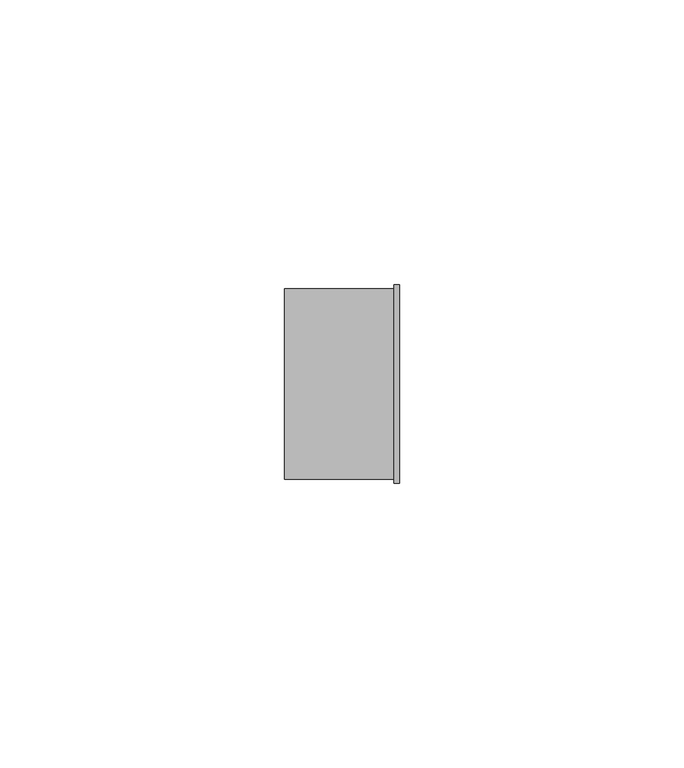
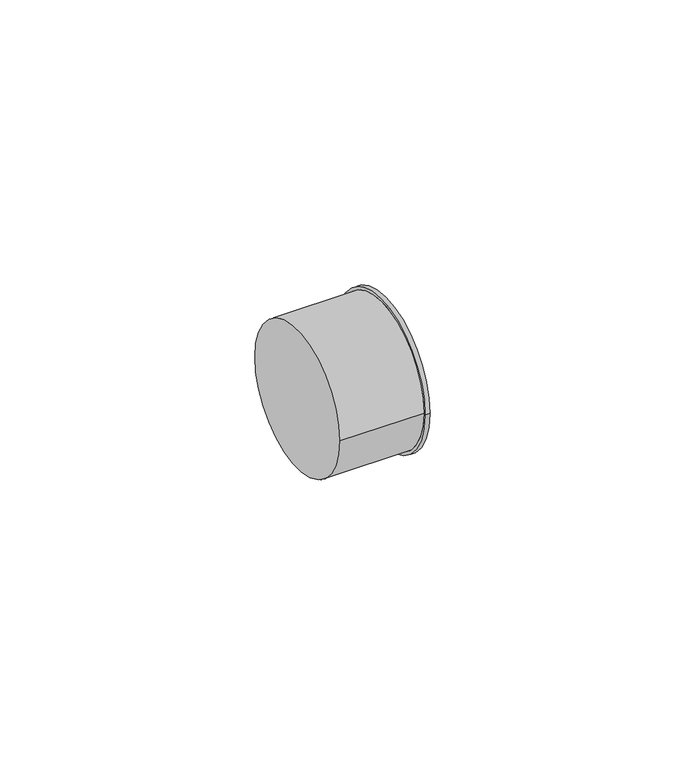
"""IFC4 building model written with IfcOpenShell, lengths in millimetres: pipe fitting geometry, Bucha de redução reta - Soldada - CU : Padrão."""

from ifc_helpers import new_model, si_unit, frame, origin, place, context, project, spatial, circle_curve, source, transform, mapped, element, save
from ifc_brep_helpers import plane_surface, cylinder_surface, advanced_brep


def pipe_fitting_e2d793b1(model_context):
    return source(origin(), model_context, "Body", "AdvancedBrep", [
        advanced_brep(
        [(0.0, -16.72, 0.0), (0.0, 16.72, 0.0), (19.24, -16.72, 0.0), (19.24, 16.72, 0.0), (20.24, -17.465, 0.0), (20.24, 17.465, 0.0), (19.24, 17.465, 0.0), (19.24, -17.465, 0.0)],
        [
            (0, 1, circle_curve(frame((0.0, 0.0, 0.0), z_axis=(-1.0, 0.0, 0.0), x_axis=(0.0, 1.0, 0.0)), 16.72)),
            (1, 0, circle_curve(frame((0.0, 0.0, 0.0), z_axis=(-1.0, 0.0, 0.0), x_axis=(0.0, 1.0, 0.0)), 16.72)),
            (0, 2),
            (2, 3, circle_curve(frame((19.24, 0.0, 0.0), z_axis=(-1.0, 0.0, 0.0), x_axis=(0.0, 1.0, 0.0)), 16.72)),
            (3, 1),
            (3, 2, circle_curve(frame((19.24, 0.0, 0.0), z_axis=(-1.0, 0.0, 0.0), x_axis=(0.0, 1.0, 0.0)), 16.72)),
            (4, 5, circle_curve(frame((20.24, 0.0, 0.0), z_axis=(1.0, 0.0, 0.0), x_axis=(0.0, 1.0, 0.0)), 17.465)),
            (5, 4, circle_curve(frame((20.24, 0.0, 0.0), z_axis=(1.0, 0.0, 0.0), x_axis=(0.0, 1.0, 0.0)), 17.465)),
            (6, 7, circle_curve(frame((19.24, 0.0, 0.0), z_axis=(1.0, 0.0, 0.0), x_axis=(0.0, 1.0, 0.0)), 17.465)),
            (7, 4),
            (5, 6),
            (7, 6, circle_curve(frame((19.24, 0.0, 0.0), z_axis=(1.0, 0.0, 0.0), x_axis=(0.0, 1.0, 0.0)), 17.465)),
        ],
        [
            plane_surface(frame((0.0, 0.0, 0.0), z_axis=(-1.0, 0.0, 0.0), x_axis=(0.0, 0.0, 1.0))),
            cylinder_surface(frame((0.0, 0.0, 0.0), z_axis=(-1.0, 0.0, 0.0), x_axis=(0.0, 1.0, 0.0)), 16.72),
            plane_surface(frame((20.24, 0.0, 0.0), z_axis=(1.0, 0.0, 0.0), x_axis=(0.0, 0.0, 1.0))),
            cylinder_surface(frame((19.24, 0.0, 0.0), z_axis=(-1.0, 0.0, 0.0), x_axis=(0.0, 1.0, 0.0)), 17.465),
            plane_surface(frame((19.24, 0.0, 0.0), z_axis=(-1.0, 0.0, 0.0), x_axis=(0.0, 0.0, 1.0))),
        ],
        [
            (0, [[1, 2]]),
            (1, [[-1, 3, 4, 5]]),
            (1, [[-2, -5, 6, -3]]),
            (2, [[7, 8]]),
            (3, [[9, 10, -8, 11]]),
            (3, [[12, -11, -7, -10]]),
            (4, [[-9, -12], [-4, -6]]),
        ],
    ),
    ])


if __name__ == "__main__":
    model = new_model("IFC4")
    model_context = context("Model", 3, world=origin())
    ifc_project = project(units=[si_unit("LENGTHUNIT", "METRE", prefix="MILLI")], contexts=[model_context])
    site = spatial("IfcSite", under=ifc_project)
    building = spatial("IfcBuilding", under=site)
    placement = place(None, origin())
    pipe_fitting_shape = pipe_fitting_e2d793b1(model_context)
    element("IfcPipeFitting", 1, ObjectType="Bucha de redução reta - Soldada - CU : Padrão", at=placement, inside=building, context=model_context, shape_type="MappedRepresentation", body=[
        mapped(pipe_fitting_shape, transform((0.0, 0.0, 0.0), x_axis=(1.0, 0.0, 0.0), y_axis=(0.0, 1.0, 0.0), z_axis=(0.0, 0.0, 1.0))),
    ])
    save(model, "model.ifc")
